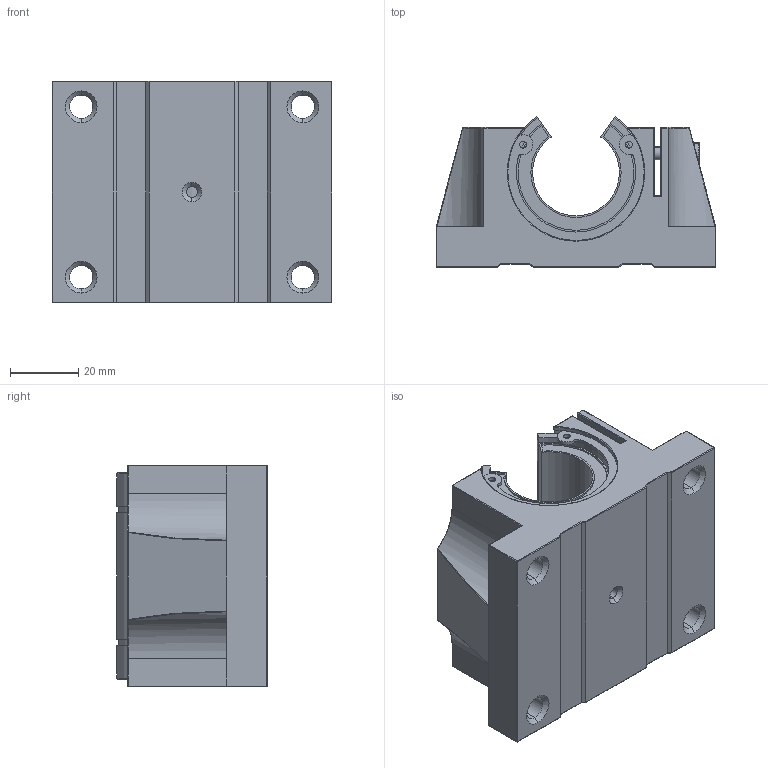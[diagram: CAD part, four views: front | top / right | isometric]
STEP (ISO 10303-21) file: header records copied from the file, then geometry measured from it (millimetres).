
FILE_DESCRIPTION (( 'STEP AP214' ), '1' );
FILE_NAME ('TBR25UU.STEP', '2020-09-25T10:27:19', ( '' ), ( '' ), 'SwSTEP 2.0', 'SolidWorks 2018', '' );
FILE_SCHEMA (( 'AUTOMOTIVE_DESIGN' ));
Length unit declared in the file: millimetre
Products named in the file (6): TBR25UU; TBR25UU-5_Œ4å12; TBR25UU-4; TBR25UU-2; TBR25UU-3; TBR25UU-1
Assembly tree (6 placements, depth 2):
  TBR25UU
    TBR25UU-1
    TBR25UU-3
    TBR25UU-2
    TBR25UU-4  x2
    TBR25UU-5_Œ4å12
Bounding box: 82 x 44.18 x 65 mm (x, y, z)
Volume: 140001.3 mm3; surface area: 50935.6 mm2
Topology: 6 solids, 6 shells, 460 faces, 1163 edges, 717 vertices
Faces by surface type: plane 189, cylinder 161, bspline 44, cone 28, torus 22, sphere 16
Entity records: 17322 total; most frequent: CARTESIAN_POINT 4985, ORIENTED_EDGE 2200, DIRECTION 2094, EDGE_CURVE 1100, AXIS2_PLACEMENT_3D 712, VERTEX_POINT 687, LINE 670, VECTOR 670
